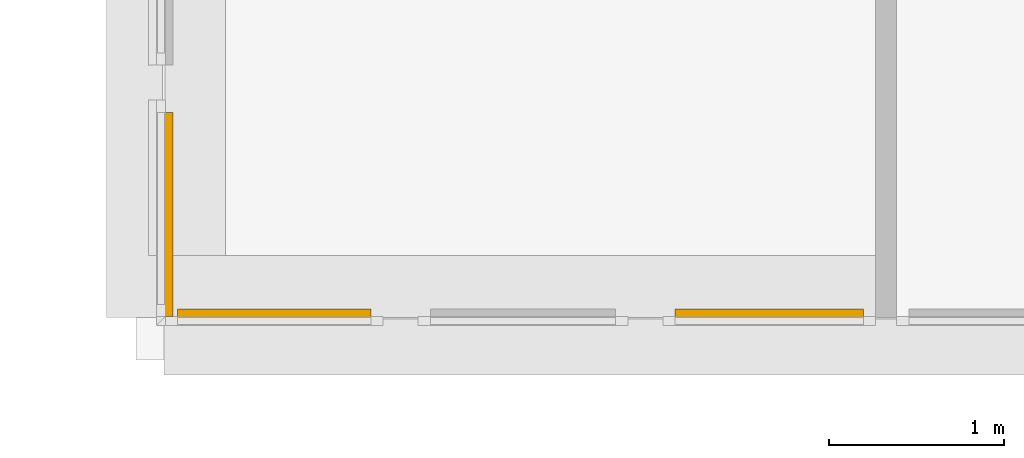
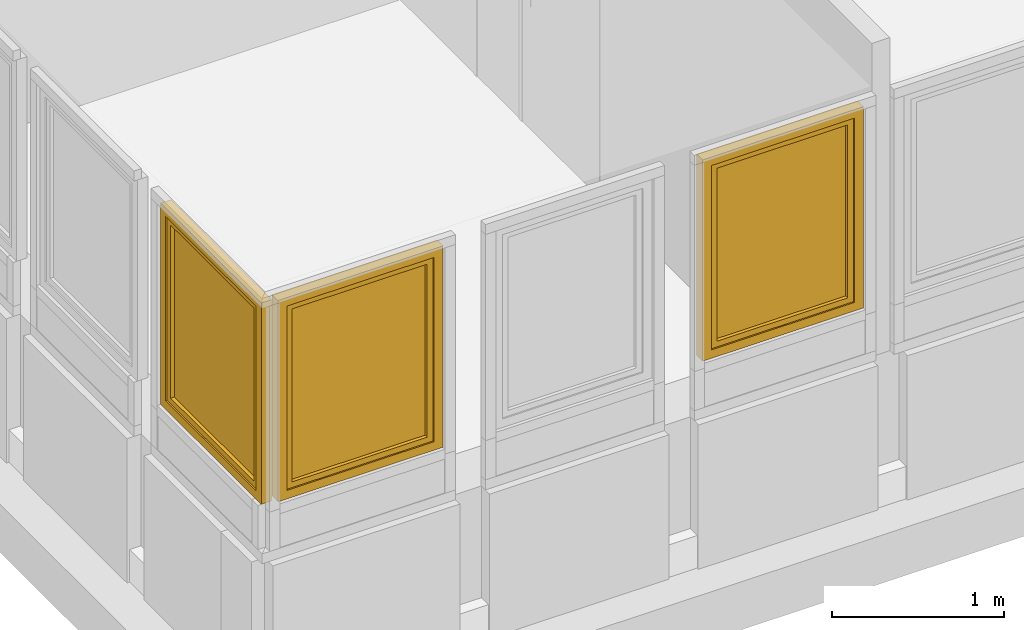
# One storey, part 88 of 97: 3 windows, 3 elements without a shape of their own.
"""IFC4 building model written with IfcOpenShell, lengths in metres."""

from ifc_helpers import new_model, entity, si_unit, converted_unit, derived_unit, direction, frame, origin, place, context, subcontext, project, spatial, polygons, source, transform, mapped, material, material_list, constituent, constituent_set, type_object, type_shapes, element, aggregate, save


model = new_model("IFC4")

# Units and contexts
model_context = context("Model", 3, precision=1e-05, world=origin(), true_north=direction((6.12303176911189e-17, 1.0)))
body_context = subcontext(model_context, "Body", "Model", "MODEL_VIEW")
ifc_project = project(units=[si_unit("LENGTHUNIT", "METRE"), si_unit("AREAUNIT", "SQUARE_METRE"), si_unit("VOLUMEUNIT", "CUBIC_METRE"), converted_unit("PLANEANGLEUNIT", "DEGREE", entity("IfcRatioMeasure", 0.0174532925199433), si_unit("PLANEANGLEUNIT", "RADIAN"), dimensions=[0, 0, 0, 0, 0, 0, 0]), si_unit("MASSUNIT", "GRAM", prefix="KILO"), derived_unit("MASSDENSITYUNIT", [(si_unit("MASSUNIT", "GRAM", prefix="KILO"), 1), (si_unit("LENGTHUNIT", "METRE"), -3)]), derived_unit("MOMENTOFINERTIAUNIT", [(si_unit("LENGTHUNIT", "METRE"), 4)]), si_unit("TIMEUNIT", "SECOND"), si_unit("FREQUENCYUNIT", "HERTZ"), si_unit("THERMODYNAMICTEMPERATUREUNIT", "DEGREE_CELSIUS"), derived_unit("THERMALTRANSMITTANCEUNIT", [(si_unit("MASSUNIT", "GRAM", prefix="KILO"), 1), (si_unit("THERMODYNAMICTEMPERATUREUNIT", "KELVIN"), -1), (si_unit("TIMEUNIT", "SECOND"), -3)]), derived_unit("VOLUMETRICFLOWRATEUNIT", [(si_unit("LENGTHUNIT", "METRE"), 3), (si_unit("TIMEUNIT", "SECOND"), -1)]), si_unit("ELECTRICCURRENTUNIT", "AMPERE"), si_unit("ELECTRICVOLTAGEUNIT", "VOLT"), si_unit("POWERUNIT", "WATT"), si_unit("FORCEUNIT", "NEWTON", prefix="KILO"), si_unit("ILLUMINANCEUNIT", "LUX"), si_unit("LUMINOUSFLUXUNIT", "LUMEN"), si_unit("LUMINOUSINTENSITYUNIT", "CANDELA"), derived_unit("USERDEFINED", [(si_unit("MASSUNIT", "GRAM", prefix="KILO"), -1), (si_unit("LENGTHUNIT", "METRE"), -2), (si_unit("TIMEUNIT", "SECOND"), 3), (si_unit("LUMINOUSFLUXUNIT", "LUMEN"), 1)]), derived_unit("LINEARVELOCITYUNIT", [(si_unit("LENGTHUNIT", "METRE"), 1), (si_unit("TIMEUNIT", "SECOND"), -1)]), si_unit("PRESSUREUNIT", "PASCAL"), derived_unit("USERDEFINED", [(si_unit("LENGTHUNIT", "METRE"), -2), (si_unit("MASSUNIT", "GRAM", prefix="KILO"), 1), (si_unit("TIMEUNIT", "SECOND"), -2)]), derived_unit("LINEARFORCEUNIT", [(si_unit("MASSUNIT", "GRAM", prefix="KILO"), 1), (si_unit("LENGTHUNIT", "METRE"), 1), (si_unit("TIMEUNIT", "SECOND"), -2), (si_unit("LENGTHUNIT", "METRE"), -1)]), derived_unit("PLANARFORCEUNIT", [(si_unit("MASSUNIT", "GRAM", prefix="KILO"), 1), (si_unit("LENGTHUNIT", "METRE"), 1), (si_unit("TIMEUNIT", "SECOND"), -2), (si_unit("LENGTHUNIT", "METRE"), -2)])], contexts=[model_context])

# Site, building, storey
site_placement = place(None, origin())
site = spatial("IfcSite", under=ifc_project, at=site_placement, Name="Default", CompositionType="ELEMENT")
building_placement = place(site_placement, origin())
building = spatial("IfcBuilding", under=site, at=building_placement, Name="HOTEL CONSULAIRE BOULOGNE SUR MER", CompositionType="ELEMENT")
storey_placement = place(building_placement, frame((0.0, 0.0, 3.62152697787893)))
storey = spatial("IfcBuildingStorey", under=building, at=storey_placement, Name="Niveau 1", CompositionType="ELEMENT", Elevation=3.62152697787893)

# Curtain wall, window
curtain_wall_type = type_object("IfcCurtainWallType", Name="Mur-rideau:Simple panneau", PredefinedType="NOTDEFINED")
curtain_wall_1_placement = place(storey_placement, frame((0.0, 0.0, -3.62152697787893)))
curtain_wall_1 = element("IfcCurtainWall", 1, at=curtain_wall_1_placement, inside=storey, type_object=curtain_wall_type, Name="Mur-rideau:Simple panneau", ObjectType="Mur-rideau:Simple panneau", PredefinedType="NOTDEFINED")
ifc_material_1 = material(Name="PVC - Blanc", Category="Plastique")
ifc_constituent_1 = constituent(ifc_material_1, Name="PVC - Blanc", Category="Matériaux")
ifc_material_2 = material(Name="Fenêtre - Vitrage", Category="Verre")
ifc_constituent_2 = constituent(ifc_material_2, Name="Fenêtre - Vitrage", Category="Matériaux")
ifc_constituent_set_1 = constituent_set(constituents=[ifc_constituent_1, ifc_constituent_2], Name="MaterialConstituentSet")
ifc_material_list_1 = material_list([ifc_material_1, ifc_material_1])
window_type_1 = type_object("IfcWindowType", Name="MR 1 Vantail:MR 1 Vantail", PartitioningType="NOTDEFINED", PredefinedType="WINDOW", material=ifc_material_list_1)
shared_shape_1 = source(origin(), body_context, "Body", "Tessellation", [
    polygons([(-0.514973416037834, -0.0492408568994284, 0.472033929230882), (-0.503681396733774, -0.0492408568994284, 0.472033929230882), (-0.502293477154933, -0.0492408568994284, 0.470646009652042), (-0.502293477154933, -0.0492408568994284, 0.459332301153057), (-0.503659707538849, -0.0492408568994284, 0.457966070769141), (-0.514995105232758, -0.0492408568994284, 0.457966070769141), (-0.516361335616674, -0.0492408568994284, 0.459332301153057), (-0.516361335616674, -0.0492408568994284, 0.470646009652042), (-0.516361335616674, -0.0615795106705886, 0.470646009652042), (-0.514973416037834, -0.0621544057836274, 0.472033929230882), (-0.516361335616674, -0.0568932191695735, 0.459332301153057), (-0.516361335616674, -0.0635731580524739, 0.452652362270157), (-0.516361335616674, -0.0635731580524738, 0.370000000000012), (-0.516361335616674, -0.0748868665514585, 0.370000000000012), (-0.516361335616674, -0.0748868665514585, 0.457338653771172), (-0.514995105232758, -0.0563273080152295, 0.457966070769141), (-0.503659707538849, -0.0563273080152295, 0.457966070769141), (-0.502293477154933, -0.0568932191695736, 0.459332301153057), (-0.502293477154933, -0.0615795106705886, 0.470646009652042), (-0.502293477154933, -0.0748868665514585, 0.457338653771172), (-0.502293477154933, -0.0748868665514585, 0.370000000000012), (-0.502293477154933, -0.063573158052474, 0.370000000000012), (-0.502293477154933, -0.0635731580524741, 0.452652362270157), (-0.503681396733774, -0.0621544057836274, 0.472033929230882), (-0.514973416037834, -0.0762747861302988, 0.457913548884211), (-0.514995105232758, -0.0622069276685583, 0.452086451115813), (-0.503659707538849, -0.0622069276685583, 0.452086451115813), (-0.503681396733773, -0.0762747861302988, 0.457913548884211), (-0.514973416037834, -0.0762747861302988, 0.370000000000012), (-0.514995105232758, -0.0622069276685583, 0.370000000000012), (-0.503659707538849, -0.0622069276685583, 0.370000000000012), (-0.503681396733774, -0.0762747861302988, 0.370000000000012)], [[[6, 7, 8, 1, 2, 3, 4, 5]], [[30, 26, 27, 31]], [[9, 10, 1, 8]], [[11, 12, 13, 14, 15, 9, 8, 7]], [[16, 11, 7, 6]], [[16, 6, 5, 17]], [[31, 22, 21, 32, 29, 14, 13, 30]], [[17, 5, 4, 18]], [[3, 19, 20, 21, 22, 23, 18, 4]], [[19, 3, 2, 24]], [[24, 2, 1, 10]], [[15, 25, 10, 9]], [[26, 12, 11, 16]], [[27, 26, 16, 17]], [[27, 17, 18, 23]], [[20, 19, 24, 28]], [[28, 24, 10, 25]], [[29, 25, 15, 14]], [[13, 12, 26, 30]], [[22, 31, 27, 23]], [[32, 21, 20, 28]], [[32, 28, 25, 29]]], closed=True),
    polygons([(-0.516327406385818, -0.0432408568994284, 0.490000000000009), (-0.502327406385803, -0.0432408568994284, 0.490000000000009), (-0.497327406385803, -0.0432408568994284, 0.48500000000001), (-0.497327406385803, -0.0432408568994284, 0.414999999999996), (-0.50232740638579, -0.0432408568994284, 0.410000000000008), (-0.516327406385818, -0.0432408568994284, 0.410000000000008), (-0.521327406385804, -0.0432408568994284, 0.414999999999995), (-0.521327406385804, -0.0432408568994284, 0.48500000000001), (-0.516327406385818, -0.0492408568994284, 0.490000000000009), (-0.521327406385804, -0.0492408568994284, 0.48500000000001), (-0.521327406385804, -0.0492408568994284, 0.414999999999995), (-0.516327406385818, -0.0492408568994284, 0.410000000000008), (-0.50232740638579, -0.0492408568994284, 0.410000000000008), (-0.497327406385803, -0.0492408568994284, 0.414999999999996), (-0.497327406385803, -0.0492408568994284, 0.48500000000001), (-0.502327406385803, -0.0492408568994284, 0.490000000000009)], [[[2, 3, 4, 5, 6, 7, 8, 1]], [[13, 14, 15, 16, 9, 10, 11, 12]], [[9, 1, 8, 10]], [[10, 8, 7, 11]], [[11, 7, 6, 12]], [[12, 6, 5, 13]], [[13, 5, 4, 14]], [[15, 14, 4, 3]], [[15, 3, 2, 16]], [[16, 2, 1, 9]]], closed=True),
    polygons([(0.484327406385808, -0.0192408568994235, 1.32586048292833), (-0.484327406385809, -0.0192408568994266, 1.32586048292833), (-0.484327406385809, -0.0192408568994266, 0.1), (0.484327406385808, -0.0192408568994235, 0.1), (0.484327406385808, -0.00724085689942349, 1.32586048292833), (0.484327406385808, -0.00724085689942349, 0.1), (-0.484327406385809, -0.00724085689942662, 0.1), (-0.484327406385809, -0.00724085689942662, 1.32586048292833)], [[[4, 1, 2, 3]], [[7, 8, 5, 6]], [[2, 1, 5, 8]], [[3, 2, 8, 7]], [[4, 3, 7, 6]], [[1, 4, 6, 5]]], closed=True),
    polygons([(-0.534327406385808, 0.0167591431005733, 1.37586048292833), (-0.534327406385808, -0.043240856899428, 1.37586048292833), (0.534327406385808, -0.043240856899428, 1.37586048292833), (0.534327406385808, 0.0167591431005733, 1.37586048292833), (-0.484327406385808, -0.043240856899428, 1.32586048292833), (-0.484327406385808, 0.0167591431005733, 1.32586048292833), (0.484327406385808, 0.0167591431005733, 1.32586048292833), (0.484327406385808, -0.043240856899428, 1.32586048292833), (0.534327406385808, -0.043240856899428, 0.0500000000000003), (0.534327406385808, 0.0167591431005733, 0.0500000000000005), (0.484327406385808, 0.0167591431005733, 0.1), (0.484327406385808, -0.043240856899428, 0.1), (-0.534327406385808, -0.043240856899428, 0.0500000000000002), (-0.534327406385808, 0.0167591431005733, 0.0500000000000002), (-0.484327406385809, 0.0167591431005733, 0.1), (-0.484327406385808, -0.043240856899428, 0.1)], [[[1, 2, 3, 4]], [[12, 11, 15, 16]], [[5, 6, 7, 8]], [[10, 9, 13, 14]], [[4, 3, 9, 10]], [[16, 15, 6, 5]], [[8, 7, 11, 12]], [[14, 13, 2, 1]], [[9, 3, 2, 13], [16, 5, 8, 12]], [[14, 1, 4, 10], [11, 7, 6, 15]]], closed=True),
    polygons([(-0.524327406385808, 0.016759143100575, 1.36586048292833), (-0.524327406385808, 0.0267591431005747, 1.36586048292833), (0.524327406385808, 0.0267591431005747, 1.36586048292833), (0.524327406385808, 0.016759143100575, 1.36586048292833), (-0.534327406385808, -0.0432408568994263, 1.37586048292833), (-0.534327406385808, 0.016759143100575, 1.37586048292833), (0.534327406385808, 0.016759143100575, 1.37586048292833), (0.534327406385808, -0.0432408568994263, 1.37586048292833), (-0.584327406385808, 0.0267591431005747, 1.42586048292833), (-0.584327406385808, -0.0432408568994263, 1.42586048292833), (0.584327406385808, -0.0432408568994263, 1.42586048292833), (0.584327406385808, 0.0267591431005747, 1.42586048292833), (0.524327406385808, 0.0267591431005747, 0.0600000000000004), (0.524327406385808, 0.016759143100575, 0.0600000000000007), (0.534327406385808, 0.016759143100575, 0.0500000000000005), (0.534327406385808, -0.0432408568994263, 0.0500000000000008), (0.584327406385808, -0.0432408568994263, 5.41433564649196e-16), (0.584327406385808, 0.0267591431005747, 5.41433564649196e-16), (-0.524327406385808, 0.0267591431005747, 0.0600000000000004), (-0.524327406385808, 0.016759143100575, 0.0600000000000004), (-0.534327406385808, 0.016759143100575, 0.0500000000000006), (-0.534327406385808, -0.0432408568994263, 0.0500000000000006), (-0.584327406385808, -0.0432408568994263, 6.09112760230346e-16), (-0.584327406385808, 0.0267591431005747, 6.09112760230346e-16)], [[[1, 2, 3, 4]], [[5, 6, 7, 8]], [[18, 17, 23, 24]], [[9, 10, 11, 12]], [[14, 13, 19, 20]], [[16, 15, 21, 22]], [[4, 3, 13, 14]], [[8, 7, 15, 16]], [[24, 23, 10, 9]], [[12, 11, 17, 18]], [[20, 19, 2, 1]], [[22, 21, 6, 5]], [[24, 9, 12, 18], [13, 3, 2, 19]], [[15, 7, 6, 21], [20, 1, 4, 14]], [[17, 11, 10, 23], [22, 5, 8, 16]]], closed=True),
])
type_shapes(window_type_1, [shared_shape_1])
window_1_placement = place(curtain_wall_1_placement, frame((-13.7870998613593, -28.9657773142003, 4.79613951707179), z_axis=(0.0, 0.0, 1.0), x_axis=(0.0, 1.0, 0.0)))
window_1 = element("IfcWindow", 2, at=window_1_placement, type_object=window_type_1, material=ifc_constituent_set_1, Name="MR 1 Vantail:MR 1 Vantail", ObjectType="MR 1 Vantail:MR 1 Vantail", OverallHeight=1.42586048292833, OverallWidth=1.16865481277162, PartitioningType="NOTDEFINED", PredefinedType="WINDOW", context=body_context, shape_type="MappedRepresentation", body=[
    mapped(shared_shape_1, transform((0.0, 0.0, 0.0), scale=1.0)),
])
aggregate(curtain_wall_1, [window_1])

curtain_wall_2_placement = place(storey_placement, frame((0.0, 0.0, -3.62152697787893)))
curtain_wall_2 = element("IfcCurtainWall", 3, at=curtain_wall_2_placement, inside=storey, type_object=curtain_wall_type, Name="Mur-rideau:Simple panneau", ObjectType="Mur-rideau:Simple panneau", PredefinedType="NOTDEFINED")
ifc_constituent_3 = constituent(ifc_material_1, Name="PVC - Blanc", Category="Matériaux")
ifc_constituent_4 = constituent(ifc_material_2, Name="Fenêtre - Vitrage", Category="Matériaux")
ifc_constituent_set_2 = constituent_set(constituents=[ifc_constituent_3, ifc_constituent_4], Name="MaterialConstituentSet")
ifc_material_list_2 = material_list([ifc_material_1, ifc_material_1])
window_type_2 = type_object("IfcWindowType", Name="MR 1 Vantail:MR 1 Vantail", PartitioningType="NOTDEFINED", PredefinedType="WINDOW", material=ifc_material_list_2)
shared_shape_2 = source(origin(), body_context, "Body", "Tessellation", [
    polygons([(-0.483485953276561, -0.0492408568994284, 0.472033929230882), (-0.4721939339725, -0.0492408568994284, 0.472033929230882), (-0.47080601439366, -0.0492408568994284, 0.470646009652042), (-0.47080601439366, -0.0492408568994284, 0.459332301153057), (-0.472172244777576, -0.0492408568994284, 0.457966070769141), (-0.483507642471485, -0.0492408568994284, 0.457966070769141), (-0.484873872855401, -0.0492408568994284, 0.459332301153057), (-0.484873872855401, -0.0492408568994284, 0.470646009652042), (-0.484873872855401, -0.0615795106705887, 0.470646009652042), (-0.483485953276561, -0.0621544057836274, 0.472033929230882), (-0.484873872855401, -0.0568932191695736, 0.459332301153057), (-0.484873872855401, -0.063573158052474, 0.452652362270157), (-0.484873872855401, -0.0635731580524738, 0.370000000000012), (-0.484873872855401, -0.0748868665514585, 0.370000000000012), (-0.484873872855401, -0.0748868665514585, 0.457338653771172), (-0.483507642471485, -0.0563273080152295, 0.457966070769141), (-0.472172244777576, -0.0563273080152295, 0.457966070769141), (-0.47080601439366, -0.0568932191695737, 0.459332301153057), (-0.47080601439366, -0.0615795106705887, 0.470646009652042), (-0.47080601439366, -0.0748868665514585, 0.457338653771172), (-0.47080601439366, -0.0748868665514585, 0.370000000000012), (-0.47080601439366, -0.0635731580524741, 0.370000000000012), (-0.47080601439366, -0.0635731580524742, 0.452652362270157), (-0.4721939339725, -0.0621544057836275, 0.472033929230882), (-0.483485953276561, -0.0762747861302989, 0.457913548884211), (-0.483507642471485, -0.0622069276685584, 0.452086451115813), (-0.472172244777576, -0.0622069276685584, 0.452086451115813), (-0.4721939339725, -0.0762747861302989, 0.457913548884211), (-0.483485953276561, -0.0762747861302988, 0.370000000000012), (-0.483507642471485, -0.0622069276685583, 0.370000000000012), (-0.472172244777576, -0.0622069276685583, 0.370000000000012), (-0.4721939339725, -0.0762747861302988, 0.370000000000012)], [[[6, 7, 8, 1, 2, 3, 4, 5]], [[30, 26, 27, 31]], [[9, 10, 1, 8]], [[11, 12, 13, 14, 15, 9, 8, 7]], [[16, 11, 7, 6]], [[16, 6, 5, 17]], [[31, 22, 21, 32, 29, 14, 13, 30]], [[17, 5, 4, 18]], [[3, 19, 20, 21, 22, 23, 18, 4]], [[19, 3, 2, 24]], [[24, 2, 1, 10]], [[15, 25, 10, 9]], [[26, 12, 11, 16]], [[27, 26, 16, 17]], [[27, 17, 18, 23]], [[20, 19, 24, 28]], [[28, 24, 10, 25]], [[29, 25, 15, 14]], [[13, 12, 26, 30]], [[22, 31, 27, 23]], [[32, 21, 20, 28]], [[32, 28, 25, 29]]], closed=True),
    polygons([(-0.484839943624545, -0.0432408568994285, 0.490000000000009), (-0.470839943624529, -0.0432408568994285, 0.490000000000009), (-0.46583994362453, -0.0432408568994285, 0.48500000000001), (-0.46583994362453, -0.0432408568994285, 0.414999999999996), (-0.470839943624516, -0.0432408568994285, 0.410000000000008), (-0.484839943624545, -0.0432408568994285, 0.410000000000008), (-0.489839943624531, -0.0432408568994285, 0.414999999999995), (-0.489839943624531, -0.0432408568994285, 0.48500000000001), (-0.484839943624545, -0.0492408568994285, 0.490000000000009), (-0.489839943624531, -0.0492408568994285, 0.48500000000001), (-0.489839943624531, -0.0492408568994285, 0.414999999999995), (-0.484839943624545, -0.0492408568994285, 0.410000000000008), (-0.470839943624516, -0.0492408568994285, 0.410000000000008), (-0.46583994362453, -0.0492408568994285, 0.414999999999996), (-0.46583994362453, -0.0492408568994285, 0.48500000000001), (-0.470839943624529, -0.0492408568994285, 0.490000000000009)], [[[2, 3, 4, 5, 6, 7, 8, 1]], [[13, 14, 15, 16, 9, 10, 11, 12]], [[9, 1, 8, 10]], [[10, 8, 7, 11]], [[11, 7, 6, 12]], [[12, 6, 5, 13]], [[13, 5, 4, 14]], [[15, 14, 4, 3]], [[15, 3, 2, 16]], [[16, 2, 1, 9]]], closed=True),
    polygons([(0.452839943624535, -0.0192408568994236, 1.32586048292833), (-0.452839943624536, -0.0192408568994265, 1.32586048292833), (-0.452839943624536, -0.0192408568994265, 0.1), (0.452839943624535, -0.0192408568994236, 0.1), (0.452839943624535, -0.00724085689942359, 1.32586048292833), (0.452839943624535, -0.00724085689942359, 0.1), (-0.452839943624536, -0.00724085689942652, 0.1), (-0.452839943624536, -0.00724085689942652, 1.32586048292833)], [[[4, 1, 2, 3]], [[7, 8, 5, 6]], [[2, 1, 5, 8]], [[3, 2, 8, 7]], [[4, 3, 7, 6]], [[1, 4, 6, 5]]], closed=True),
    polygons([(-0.502839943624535, 0.0167591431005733, 1.37586048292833), (-0.502839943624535, -0.043240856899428, 1.37586048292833), (0.502839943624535, -0.043240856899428, 1.37586048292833), (0.502839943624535, 0.0167591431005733, 1.37586048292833), (-0.452839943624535, -0.043240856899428, 1.32586048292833), (-0.452839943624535, 0.0167591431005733, 1.32586048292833), (0.452839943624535, 0.0167591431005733, 1.32586048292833), (0.452839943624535, -0.043240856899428, 1.32586048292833), (0.502839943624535, -0.043240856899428, 0.0500000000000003), (0.502839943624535, 0.0167591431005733, 0.0500000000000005), (0.452839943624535, 0.0167591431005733, 0.1), (0.452839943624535, -0.043240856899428, 0.1), (-0.502839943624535, -0.043240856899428, 0.0500000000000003), (-0.502839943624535, 0.0167591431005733, 0.0500000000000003), (-0.452839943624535, 0.0167591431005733, 0.1), (-0.452839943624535, -0.043240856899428, 0.1)], [[[1, 2, 3, 4]], [[12, 11, 15, 16]], [[5, 6, 7, 8]], [[10, 9, 13, 14]], [[4, 3, 9, 10]], [[16, 15, 6, 5]], [[8, 7, 11, 12]], [[14, 13, 2, 1]], [[9, 3, 2, 13], [16, 5, 8, 12]], [[14, 1, 4, 10], [11, 7, 6, 15]]], closed=True),
    polygons([(-0.492839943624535, 0.016759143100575, 1.36586048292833), (-0.492839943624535, 0.0267591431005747, 1.36586048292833), (0.492839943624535, 0.0267591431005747, 1.36586048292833), (0.492839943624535, 0.016759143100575, 1.36586048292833), (-0.502839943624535, -0.0432408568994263, 1.37586048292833), (-0.502839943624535, 0.016759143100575, 1.37586048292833), (0.502839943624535, 0.016759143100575, 1.37586048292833), (0.502839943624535, -0.0432408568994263, 1.37586048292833), (-0.552839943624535, 0.0267591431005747, 1.42586048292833), (-0.552839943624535, -0.0432408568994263, 1.42586048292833), (0.552839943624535, -0.0432408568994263, 1.42586048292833), (0.552839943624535, 0.0267591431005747, 1.42586048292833), (0.492839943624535, 0.0267591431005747, 0.0600000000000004), (0.492839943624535, 0.016759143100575, 0.0600000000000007), (0.502839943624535, 0.016759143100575, 0.0500000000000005), (0.502839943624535, -0.0432408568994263, 0.0500000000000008), (0.552839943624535, -0.0432408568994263, 5.41433564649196e-16), (0.552839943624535, 0.0267591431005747, 5.41433564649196e-16), (-0.492839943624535, 0.0267591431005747, 0.0600000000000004), (-0.492839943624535, 0.016759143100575, 0.0600000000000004), (-0.502839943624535, 0.016759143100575, 0.0500000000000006), (-0.502839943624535, -0.0432408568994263, 0.0500000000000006), (-0.552839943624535, -0.0432408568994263, 5.41433564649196e-16), (-0.552839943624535, 0.0267591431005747, 5.41433564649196e-16)], [[[1, 2, 3, 4]], [[5, 6, 7, 8]], [[18, 17, 23, 24]], [[9, 10, 11, 12]], [[14, 13, 19, 20]], [[16, 15, 21, 22]], [[4, 3, 13, 14]], [[8, 7, 15, 16]], [[24, 23, 10, 9]], [[12, 11, 17, 18]], [[20, 19, 2, 1]], [[22, 21, 6, 5]], [[24, 9, 12, 18], [13, 3, 2, 19]], [[15, 7, 6, 21], [20, 1, 4, 14]], [[17, 11, 10, 23], [22, 5, 8, 16]]], closed=True),
])
type_shapes(window_type_2, [shared_shape_2])
window_2_placement = place(curtain_wall_2_placement, frame((-13.1642599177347, -29.5501047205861, 4.79613951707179), z_axis=(0.0, 0.0, 1.0), x_axis=(-1.0, 0.0, 0.0)))
window_2 = element("IfcWindow", 4, at=window_2_placement, type_object=window_type_2, material=ifc_constituent_set_2, Name="MR 1 Vantail:MR 1 Vantail", ObjectType="MR 1 Vantail:MR 1 Vantail", OverallHeight=1.42586048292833, OverallWidth=1.10567988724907, PartitioningType="NOTDEFINED", PredefinedType="WINDOW", context=body_context, shape_type="MappedRepresentation", body=[
    mapped(shared_shape_2, transform((0.0, 0.0, 0.0), scale=1.0)),
])
aggregate(curtain_wall_2, [window_2])

curtain_wall_3_placement = place(storey_placement, frame((0.0, 0.0, -3.62152697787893)))
curtain_wall_3 = element("IfcCurtainWall", 5, at=curtain_wall_3_placement, inside=storey, type_object=curtain_wall_type, Name="Mur-rideau:Simple panneau", ObjectType="Mur-rideau:Simple panneau", PredefinedType="NOTDEFINED")
ifc_constituent_5 = constituent(ifc_material_1, Name="PVC - Blanc", Category="Matériaux")
ifc_constituent_6 = constituent(ifc_material_2, Name="Fenêtre - Vitrage", Category="Matériaux")
ifc_constituent_set_3 = constituent_set(constituents=[ifc_constituent_5, ifc_constituent_6], Name="MaterialConstituentSet")
ifc_material_list_3 = material_list([ifc_material_1, ifc_material_1])
window_type_3 = type_object("IfcWindowType", Name="MR 1 Vantail:MR 1 Vantail", PartitioningType="NOTDEFINED", PredefinedType="WINDOW", material=ifc_material_list_3)
shared_shape_3 = source(origin(), body_context, "Body", "Tessellation", [
    polygons([(-0.469155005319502, -0.0492408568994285, 0.472033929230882), (-0.457862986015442, -0.0492408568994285, 0.472033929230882), (-0.456475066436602, -0.0492408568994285, 0.470646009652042), (-0.456475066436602, -0.0492408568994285, 0.459332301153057), (-0.457841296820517, -0.0492408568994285, 0.457966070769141), (-0.469176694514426, -0.0492408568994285, 0.457966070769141), (-0.470542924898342, -0.0492408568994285, 0.459332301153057), (-0.470542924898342, -0.0492408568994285, 0.470646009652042), (-0.470542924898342, -0.0615795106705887, 0.470646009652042), (-0.469155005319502, -0.0621544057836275, 0.472033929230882), (-0.470542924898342, -0.0568932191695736, 0.459332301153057), (-0.470542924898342, -0.063573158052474, 0.452652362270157), (-0.470542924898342, -0.0635731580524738, 0.370000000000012), (-0.470542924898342, -0.0748868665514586, 0.370000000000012), (-0.470542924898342, -0.0748868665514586, 0.457338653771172), (-0.469176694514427, -0.0563273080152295, 0.457966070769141), (-0.457841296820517, -0.0563273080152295, 0.457966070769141), (-0.456475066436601, -0.0568932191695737, 0.459332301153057), (-0.456475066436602, -0.0615795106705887, 0.470646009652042), (-0.456475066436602, -0.0748868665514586, 0.457338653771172), (-0.456475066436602, -0.0748868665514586, 0.370000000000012), (-0.456475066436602, -0.0635731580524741, 0.370000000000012), (-0.456475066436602, -0.0635731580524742, 0.452652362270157), (-0.457862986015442, -0.0621544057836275, 0.472033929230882), (-0.469155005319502, -0.0762747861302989, 0.457913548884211), (-0.469176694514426, -0.0622069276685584, 0.452086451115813), (-0.457841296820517, -0.0622069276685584, 0.452086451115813), (-0.457862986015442, -0.0762747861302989, 0.457913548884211), (-0.469155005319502, -0.0762747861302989, 0.370000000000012), (-0.469176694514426, -0.0622069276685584, 0.370000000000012), (-0.457841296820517, -0.0622069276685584, 0.370000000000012), (-0.457862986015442, -0.0762747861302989, 0.370000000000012)], [[[6, 7, 8, 1, 2, 3, 4, 5]], [[30, 26, 27, 31]], [[9, 10, 1, 8]], [[11, 12, 13, 14, 15, 9, 8, 7]], [[16, 11, 7, 6]], [[16, 6, 5, 17]], [[31, 22, 21, 32, 29, 14, 13, 30]], [[17, 5, 4, 18]], [[3, 19, 20, 21, 22, 23, 18, 4]], [[19, 3, 2, 24]], [[24, 2, 1, 10]], [[15, 25, 10, 9]], [[26, 12, 11, 16]], [[27, 26, 16, 17]], [[27, 17, 18, 23]], [[20, 19, 24, 28]], [[28, 24, 10, 25]], [[29, 25, 15, 14]], [[13, 12, 26, 30]], [[22, 31, 27, 23]], [[32, 21, 20, 28]], [[32, 28, 25, 29]]], closed=True),
    polygons([(-0.470508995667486, -0.0432408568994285, 0.490000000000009), (-0.456508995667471, -0.0432408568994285, 0.490000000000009), (-0.451508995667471, -0.0432408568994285, 0.48500000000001), (-0.451508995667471, -0.0432408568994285, 0.414999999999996), (-0.456508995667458, -0.0432408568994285, 0.410000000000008), (-0.470508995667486, -0.0432408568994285, 0.410000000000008), (-0.475508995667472, -0.0432408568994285, 0.414999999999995), (-0.475508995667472, -0.0432408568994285, 0.48500000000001), (-0.470508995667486, -0.0492408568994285, 0.490000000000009), (-0.475508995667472, -0.0492408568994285, 0.48500000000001), (-0.475508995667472, -0.0492408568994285, 0.414999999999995), (-0.470508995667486, -0.0492408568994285, 0.410000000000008), (-0.456508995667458, -0.0492408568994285, 0.410000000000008), (-0.451508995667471, -0.0492408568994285, 0.414999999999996), (-0.451508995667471, -0.0492408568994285, 0.48500000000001), (-0.456508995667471, -0.0492408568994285, 0.490000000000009)], [[[2, 3, 4, 5, 6, 7, 8, 1]], [[13, 14, 15, 16, 9, 10, 11, 12]], [[9, 1, 8, 10]], [[10, 8, 7, 11]], [[11, 7, 6, 12]], [[12, 6, 5, 13]], [[13, 5, 4, 14]], [[15, 14, 4, 3]], [[15, 3, 2, 16]], [[16, 2, 1, 9]]], closed=True),
    polygons([(0.438508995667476, -0.0192408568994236, 1.32586048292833), (-0.438508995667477, -0.0192408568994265, 1.32586048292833), (-0.438508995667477, -0.0192408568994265, 0.1), (0.438508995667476, -0.0192408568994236, 0.1), (0.438508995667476, -0.00724085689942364, 1.32586048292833), (0.438508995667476, -0.00724085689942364, 0.1), (-0.438508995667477, -0.00724085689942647, 0.1), (-0.438508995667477, -0.00724085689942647, 1.32586048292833)], [[[4, 1, 2, 3]], [[7, 8, 5, 6]], [[2, 1, 5, 8]], [[3, 2, 8, 7]], [[4, 3, 7, 6]], [[1, 4, 6, 5]]], closed=True),
    polygons([(-0.488508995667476, 0.0167591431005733, 1.37586048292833), (-0.488508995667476, -0.043240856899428, 1.37586048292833), (0.488508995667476, -0.043240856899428, 1.37586048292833), (0.488508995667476, 0.0167591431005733, 1.37586048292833), (-0.438508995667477, -0.043240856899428, 1.32586048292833), (-0.438508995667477, 0.0167591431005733, 1.32586048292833), (0.438508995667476, 0.0167591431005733, 1.32586048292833), (0.438508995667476, -0.043240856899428, 1.32586048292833), (0.488508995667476, -0.043240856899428, 0.0500000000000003), (0.488508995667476, 0.0167591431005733, 0.0500000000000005), (0.438508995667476, 0.0167591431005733, 0.1), (0.438508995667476, -0.043240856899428, 0.1), (-0.488508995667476, -0.043240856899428, 0.0500000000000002), (-0.488508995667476, 0.0167591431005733, 0.0500000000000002), (-0.438508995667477, 0.0167591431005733, 0.1), (-0.438508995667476, -0.043240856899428, 0.1)], [[[1, 2, 3, 4]], [[12, 11, 15, 16]], [[5, 6, 7, 8]], [[10, 9, 13, 14]], [[4, 3, 9, 10]], [[16, 15, 6, 5]], [[8, 7, 11, 12]], [[14, 13, 2, 1]], [[9, 3, 2, 13], [16, 5, 8, 12]], [[14, 1, 4, 10], [11, 7, 6, 15]]], closed=True),
    polygons([(-0.478508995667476, 0.016759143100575, 1.36586048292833), (-0.478508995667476, 0.0267591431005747, 1.36586048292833), (0.478508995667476, 0.0267591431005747, 1.36586048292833), (0.478508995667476, 0.016759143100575, 1.36586048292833), (-0.488508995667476, -0.0432408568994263, 1.37586048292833), (-0.488508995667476, 0.016759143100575, 1.37586048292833), (0.488508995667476, 0.016759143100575, 1.37586048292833), (0.488508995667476, -0.0432408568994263, 1.37586048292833), (-0.538508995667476, 0.0267591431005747, 1.42586048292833), (-0.538508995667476, -0.0432408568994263, 1.42586048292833), (0.538508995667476, -0.0432408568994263, 1.42586048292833), (0.538508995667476, 0.0267591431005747, 1.42586048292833), (0.478508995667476, 0.0267591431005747, 0.0600000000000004), (0.478508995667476, 0.016759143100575, 0.0600000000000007), (0.488508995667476, 0.016759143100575, 0.0500000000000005), (0.488508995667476, -0.0432408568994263, 0.0500000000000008), (0.538508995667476, -0.0432408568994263, 5.41433564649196e-16), (0.538508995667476, 0.0267591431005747, 5.41433564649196e-16), (-0.478508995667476, 0.0267591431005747, 0.0600000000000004), (-0.478508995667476, 0.016759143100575, 0.0600000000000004), (-0.488508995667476, 0.016759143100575, 0.0500000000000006), (-0.488508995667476, -0.0432408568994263, 0.0500000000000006), (-0.538508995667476, -0.0432408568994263, 6.09112760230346e-16), (-0.538508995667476, 0.0267591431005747, 6.09112760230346e-16)], [[[1, 2, 3, 4]], [[5, 6, 7, 8]], [[18, 17, 23, 24]], [[9, 10, 11, 12]], [[14, 13, 19, 20]], [[16, 15, 21, 22]], [[4, 3, 13, 14]], [[8, 7, 15, 16]], [[24, 23, 10, 9]], [[12, 11, 17, 18]], [[20, 19, 2, 1]], [[22, 21, 6, 5]], [[24, 9, 12, 18], [13, 3, 2, 19]], [[15, 7, 6, 21], [20, 1, 4, 14]], [[17, 11, 10, 23], [22, 5, 8, 16]]], closed=True),
])
type_shapes(window_type_3, [shared_shape_3])
window_3_placement = place(curtain_wall_3_placement, frame((-10.3329109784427, -29.5501047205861, 4.79613951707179), z_axis=(0.0, 0.0, 1.0), x_axis=(-1.0, 0.0, 0.0)))
window_3 = element("IfcWindow", 6, at=window_3_placement, type_object=window_type_3, material=ifc_constituent_set_3, Name="MR 1 Vantail:MR 1 Vantail", ObjectType="MR 1 Vantail:MR 1 Vantail", OverallHeight=1.42586048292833, OverallWidth=1.07701799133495, PartitioningType="NOTDEFINED", PredefinedType="WINDOW", context=body_context, shape_type="MappedRepresentation", body=[
    mapped(shared_shape_3, transform((0.0, 0.0, 0.0), scale=1.0)),
])
aggregate(curtain_wall_3, [window_3])

save(model, "model.ifc")
